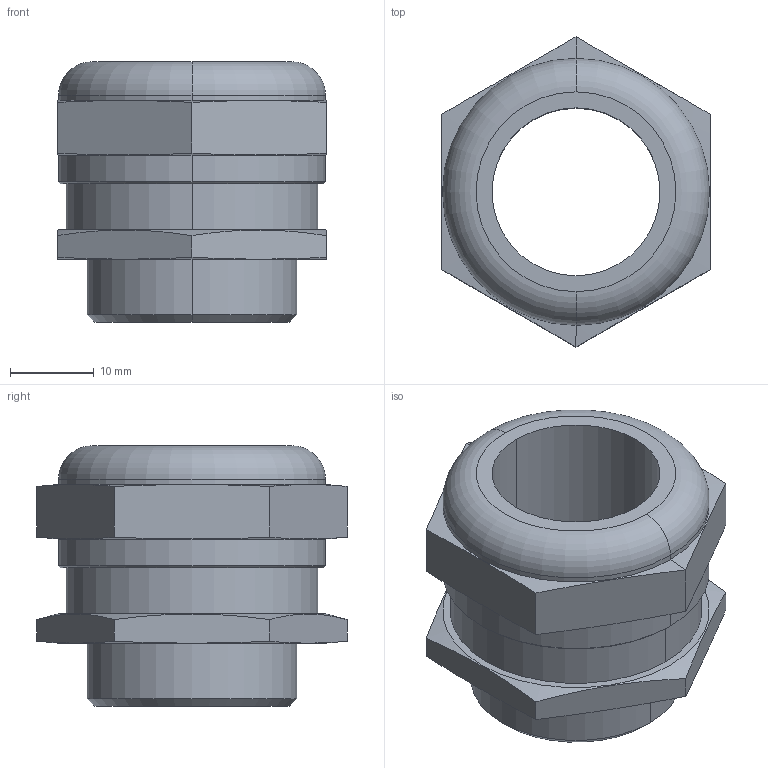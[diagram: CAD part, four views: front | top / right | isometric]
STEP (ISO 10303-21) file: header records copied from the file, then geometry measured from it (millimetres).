
FILE_DESCRIPTION (( 'STEP AP203' ), '1' );
FILE_NAME ('101021M25V.STEP', '2006-07-27T10:36:28', ( ' ' ), ( '' ), 'SwSTEP 2.0', 'SolidWorks 2005278', '' );
FILE_SCHEMA (( 'CONFIG_CONTROL_DESIGN' ));
Length unit declared in the file: millimetre
Products named in the file (1): 101021M25V
Bounding box: 32 x 36.95 x 31 mm (x, y, z)
Volume: 12657.1 mm3; surface area: 6186.9 mm2
Topology: 1 solids, 1 shells, 78 faces, 194 edges, 124 vertices
Faces by surface type: plane 54, cone 12, cylinder 10, torus 2
Entity records: 2441 total; most frequent: CARTESIAN_POINT 527, ORIENTED_EDGE 388, DIRECTION 358, EDGE_CURVE 194, VECTOR 136, LINE 136, VERTEX_POINT 124, AXIS2_PLACEMENT_3D 111
